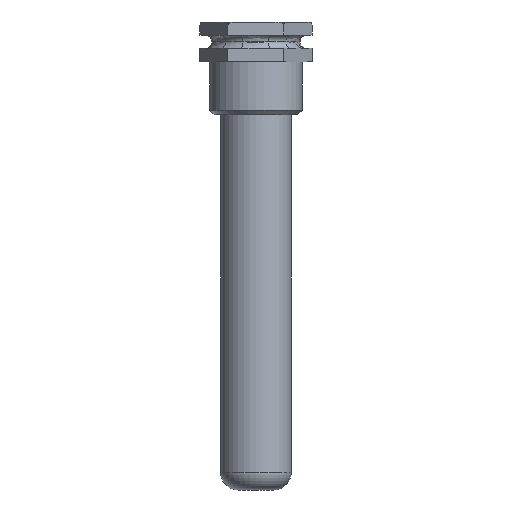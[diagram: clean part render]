
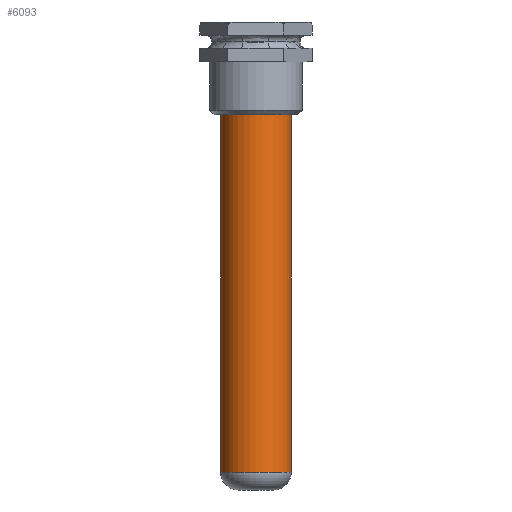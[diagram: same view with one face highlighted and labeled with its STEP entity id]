
A CAD part, front view. The second image highlights one B-rep face of the part: STEP entity #6093.
In plain terms, the highlighted cylindrical face has radius 8 mm (diameter 16 mm), a partial arc.
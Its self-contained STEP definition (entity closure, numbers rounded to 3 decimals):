
#300 = DIRECTION ( 'NONE',  ( 1., 0., 0. ) ) ;
#446 = ORIENTED_EDGE ( 'NONE', *, *, #3413, .T. ) ;
#558 = VECTOR ( 'NONE', #6783, 1000. ) ;
#888 = EDGE_CURVE ( 'NONE', #3515, #970, #2001, .T. ) ;
#969 = CARTESIAN_POINT ( 'NONE',  ( -8., 0., 97. ) ) ;
#970 = VERTEX_POINT ( 'NONE', #6968 ) ;
#1171 = ORIENTED_EDGE ( 'NONE', *, *, #2586, .T. ) ;
#1295 = ORIENTED_EDGE ( 'NONE', *, *, #1708, .F. ) ;
#1302 = ORIENTED_EDGE ( 'NONE', *, *, #888, .F. ) ;
#1396 = CIRCLE ( 'NONE', #4011, 8. ) ;
#1444 = DIRECTION ( 'NONE',  ( 0., 0., 1. ) ) ;
#1708 = EDGE_CURVE ( 'NONE', #970, #2003, #5134, .T. ) ;
#2001 = CIRCLE ( 'NONE', #3885, 8. ) ;
#2003 = VERTEX_POINT ( 'NONE', #2795 ) ;
#2038 = CARTESIAN_POINT ( 'NONE',  ( 0., 0., 97. ) ) ;
#2250 = VERTEX_POINT ( 'NONE', #4412 ) ;
#2265 = CARTESIAN_POINT ( 'NONE',  ( -8., 0., 85. ) ) ;
#2305 = CYLINDRICAL_SURFACE ( 'NONE', #3594, 8. ) ;
#2586 = EDGE_CURVE ( 'NONE', #2250, #2003, #1396, .T. ) ;
#2795 = CARTESIAN_POINT ( 'NONE',  ( 8., 0., 4. ) ) ;
#3155 = CARTESIAN_POINT ( 'NONE',  ( 0., 0., 85. ) ) ;
#3302 = DIRECTION ( 'NONE',  ( 0., 0., -1. ) ) ;
#3324 = DIRECTION ( 'NONE',  ( 0., 0., 1. ) ) ;
#3413 = EDGE_CURVE ( 'NONE', #3515, #2250, #6116, .T. ) ;
#3515 = VERTEX_POINT ( 'NONE', #2265 ) ;
#3554 = FACE_OUTER_BOUND ( 'NONE', #4144, .T. ) ;
#3594 = AXIS2_PLACEMENT_3D ( 'NONE', #2038, #4213, #5857 ) ;
#3885 = AXIS2_PLACEMENT_3D ( 'NONE', #3155, #1444, #300 ) ;
#3902 = VECTOR ( 'NONE', #3302, 1000. ) ;
#4011 = AXIS2_PLACEMENT_3D ( 'NONE', #6141, #3324, #5023 ) ;
#4144 = EDGE_LOOP ( 'NONE', ( #1295, #1302, #446, #1171 ) ) ;
#4213 = DIRECTION ( 'NONE',  ( 0., 0., -1. ) ) ;
#4412 = CARTESIAN_POINT ( 'NONE',  ( -8., 0., 4. ) ) ;
#4579 = CARTESIAN_POINT ( 'NONE',  ( 8., 0., 97. ) ) ;
#5023 = DIRECTION ( 'NONE',  ( 1., 0., 0. ) ) ;
#5134 = LINE ( 'NONE', #4579, #558 ) ;
#5857 = DIRECTION ( 'NONE',  ( -1., 0., 0. ) ) ;
#6093 = ADVANCED_FACE ( 'NONE', ( #3554 ), #2305, .T. ) ;
#6116 = LINE ( 'NONE', #969, #3902 ) ;
#6141 = CARTESIAN_POINT ( 'NONE',  ( 0., 0., 4. ) ) ;
#6783 = DIRECTION ( 'NONE',  ( 0., 0., -1. ) ) ;
#6968 = CARTESIAN_POINT ( 'NONE',  ( 8., 0., 85. ) ) ;
